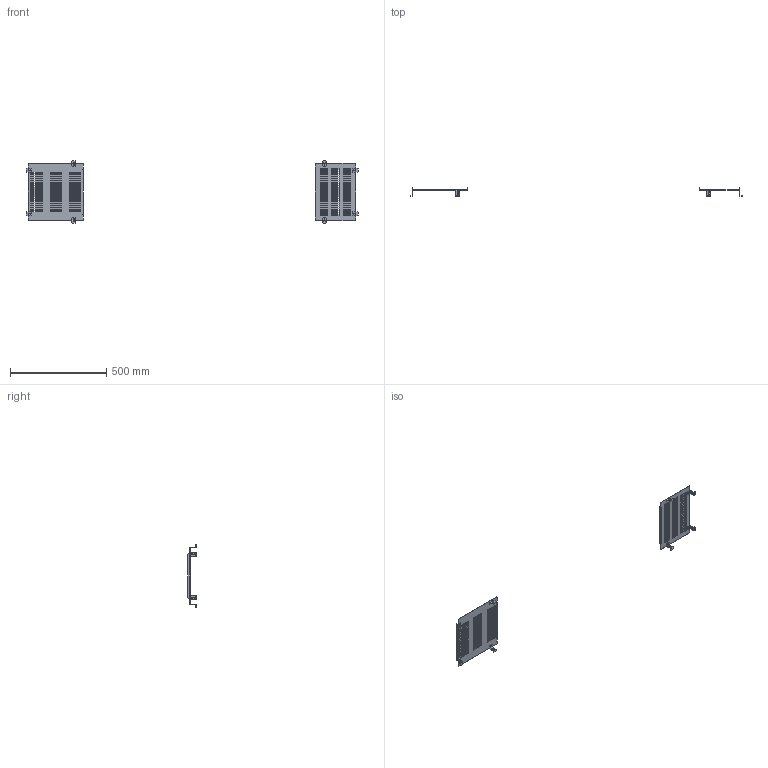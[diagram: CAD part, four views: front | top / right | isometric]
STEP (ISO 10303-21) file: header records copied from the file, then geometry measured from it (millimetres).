
FILE_DESCRIPTION(('CAx-IF Rec.Pracs.---Model Styling and Organization---1.2---2011-12-15','CAx-IF Rec.Pracs.---Geometric and Assembly Validation Properties---4.1---2014-06-16','CAx-IF Rec.Pracs.---PMI Polyline Presentation---2.0---2013-05-24'),'2;1');
FILE_NAME('R5SBPF433.stp','2021-05-06T03:02:18+03:00',(''),(''),'STEP Interface 4.4 by CT CoreTechnologie','3D_Evolution4.4 by CT CoreTechnologie','');
FILE_SCHEMA(('AUTOMOTIVE_DESIGN { 1 0 10303 214 1 1 1 1 }'));
Length unit declared in the file: millimetre
Products named in the file (4): R5SBPF433; RB.0521.00.00.0_-00; RB.0533.00.00.0_-06 400x275; RB.0534.00.00.0_-01
Assembly tree (10 placements, depth 2):
  R5SBPF433
    RB.0521.00.00.0_-00  x8
    RB.0533.00.00.0_-06 400x275
    RB.0534.00.00.0_-01
Bounding box: 1722 x 45 x 322 mm (x, y, z)
Surface area: 315924.9 mm2 (no closed solid volume)
Topology: 0 solids, 10 shells, 876 faces, 2536 edges, 1680 vertices
Faces by surface type: plane 764, cylinder 112
Entity records: 23715 total; most frequent: CARTESIAN_POINT 4137, ORIENTED_EDGE 4120, DIRECTION 3554, EDGE_CURVE 2060, VECTOR 1976, LINE 1976, VERTEX_POINT 1372, EDGE_LOOP 992
